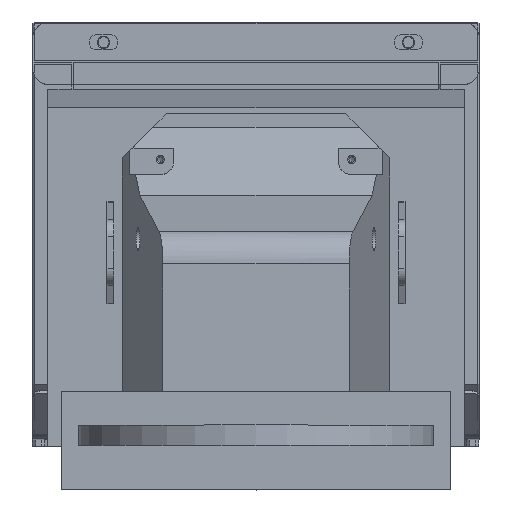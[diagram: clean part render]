
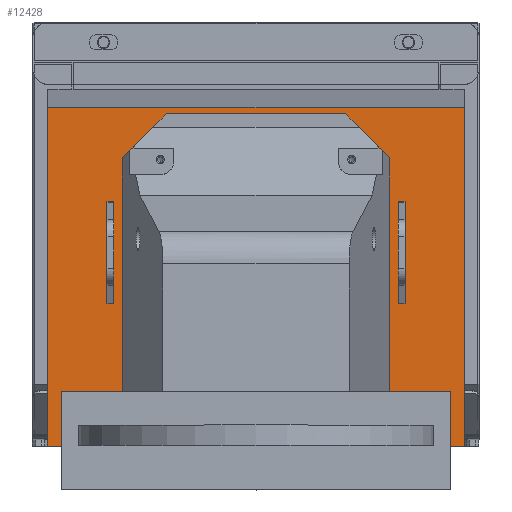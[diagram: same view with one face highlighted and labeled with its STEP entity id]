
A CAD part, top view. The second image highlights one B-rep face of the part: STEP entity #12428.
In plain terms, the highlighted planar face has unit normal (0, 0, 1).
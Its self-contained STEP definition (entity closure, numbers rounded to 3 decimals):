
#464=FACE_BOUND($,#2191,.T.);
#465=FACE_BOUND($,#2192,.T.);
#466=FACE_BOUND($,#2193,.T.);
#467=FACE_BOUND($,#2194,.T.);
#2191=EDGE_LOOP($,(#9802,#9803,#9804,#9805));
#2192=EDGE_LOOP($,(#9806,#9807,#9808,#9809));
#2193=EDGE_LOOP($,(#9810,#9811,#9812,#9813,#9814,#9815));
#2194=EDGE_LOOP($,(#9816,#9817,#9818,#9819));
#3276=LINE($,#18389,#4213);
#3282=LINE($,#18405,#4219);
#3296=LINE($,#18449,#4233);
#3298=LINE($,#18452,#4235);
#3317=LINE($,#18620,#4254);
#3323=LINE($,#18636,#4260);
#3337=LINE($,#18680,#4274);
#3339=LINE($,#18683,#4276);
#3605=LINE($,#19623,#4542);
#3614=LINE($,#19641,#4551);
#3617=LINE($,#19647,#4554);
#3625=LINE($,#19679,#4562);
#3645=LINE($,#19727,#4582);
#3668=LINE($,#19779,#4605);
#3764=LINE($,#20145,#4701);
#3766=LINE($,#20149,#4703);
#3767=LINE($,#20151,#4704);
#3768=LINE($,#20152,#4705);
#4213=VECTOR($,#14744,2.);
#4219=VECTOR($,#14756,30.);
#4233=VECTOR($,#14800,2.);
#4235=VECTOR($,#14804,30.);
#4254=VECTOR($,#14921,2.);
#4260=VECTOR($,#14933,30.);
#4274=VECTOR($,#14977,2.);
#4276=VECTOR($,#14981,30.);
#4542=VECTOR($,#15877,12.728);
#4551=VECTOR($,#15888,61.);
#4554=VECTOR($,#15893,12.728);
#4562=VECTOR($,#15923,69.);
#4582=VECTOR($,#15957,69.);
#4605=VECTOR($,#16018,79.);
#4701=VECTOR($,#16448,100.);
#4703=VECTOR($,#16452,123.);
#4704=VECTOR($,#16453,100.);
#4705=VECTOR($,#16454,123.);
#5243=VERTEX_POINT($,#18387);
#5244=VERTEX_POINT($,#18388);
#5251=VERTEX_POINT($,#18404);
#5266=VERTEX_POINT($,#18448);
#5299=VERTEX_POINT($,#18618);
#5300=VERTEX_POINT($,#18619);
#5307=VERTEX_POINT($,#18635);
#5322=VERTEX_POINT($,#18679);
#5608=VERTEX_POINT($,#19621);
#5609=VERTEX_POINT($,#19622);
#5617=VERTEX_POINT($,#19640);
#5619=VERTEX_POINT($,#19646);
#5632=VERTEX_POINT($,#19678);
#5653=VERTEX_POINT($,#19726);
#5765=VERTEX_POINT($,#20142);
#5766=VERTEX_POINT($,#20144);
#5767=VERTEX_POINT($,#20148);
#5768=VERTEX_POINT($,#20150);
#6420=EDGE_CURVE($,#5243,#5244,#3276,.T.);
#6428=EDGE_CURVE($,#5251,#5243,#3282,.T.);
#6450=EDGE_CURVE($,#5266,#5251,#3296,.T.);
#6452=EDGE_CURVE($,#5244,#5266,#3298,.T.);
#6509=EDGE_CURVE($,#5299,#5300,#3317,.T.);
#6517=EDGE_CURVE($,#5307,#5299,#3323,.T.);
#6539=EDGE_CURVE($,#5322,#5307,#3337,.T.);
#6541=EDGE_CURVE($,#5300,#5322,#3339,.T.);
#6959=EDGE_CURVE($,#5608,#5609,#3605,.T.);
#6968=EDGE_CURVE($,#5617,#5608,#3614,.T.);
#6971=EDGE_CURVE($,#5619,#5617,#3617,.T.);
#6985=EDGE_CURVE($,#5609,#5632,#3625,.T.);
#7009=EDGE_CURVE($,#5653,#5619,#3645,.T.);
#7036=EDGE_CURVE($,#5632,#5653,#3668,.T.);
#7194=EDGE_CURVE($,#5765,#5766,#3764,.T.);
#7196=EDGE_CURVE($,#5767,#5765,#3766,.T.);
#7197=EDGE_CURVE($,#5768,#5767,#3767,.T.);
#7198=EDGE_CURVE($,#5768,#5766,#3768,.T.);
#9802=ORIENTED_EDGE($,*,*,#6428,.T.);
#9803=ORIENTED_EDGE($,*,*,#6420,.T.);
#9804=ORIENTED_EDGE($,*,*,#6452,.T.);
#9805=ORIENTED_EDGE($,*,*,#6450,.T.);
#9806=ORIENTED_EDGE($,*,*,#6517,.T.);
#9807=ORIENTED_EDGE($,*,*,#6509,.T.);
#9808=ORIENTED_EDGE($,*,*,#6541,.T.);
#9809=ORIENTED_EDGE($,*,*,#6539,.T.);
#9810=ORIENTED_EDGE($,*,*,#6971,.T.);
#9811=ORIENTED_EDGE($,*,*,#6968,.T.);
#9812=ORIENTED_EDGE($,*,*,#6959,.T.);
#9813=ORIENTED_EDGE($,*,*,#6985,.T.);
#9814=ORIENTED_EDGE($,*,*,#7036,.T.);
#9815=ORIENTED_EDGE($,*,*,#7009,.T.);
#9816=ORIENTED_EDGE($,*,*,#7196,.F.);
#9817=ORIENTED_EDGE($,*,*,#7197,.F.);
#9818=ORIENTED_EDGE($,*,*,#7198,.T.);
#9819=ORIENTED_EDGE($,*,*,#7194,.F.);
#11036=PLANE($,#13574);
#12428=ADVANCED_FACE($,(#464,#465,#466,#467),#11036,.T.);
#13574=AXIS2_PLACEMENT_3D($,#20147,#16450,#16451);
#14744=DIRECTION($,(-1.,0.,0.));
#14756=DIRECTION($,(0.,-1.,0.));
#14800=DIRECTION($,(1.,0.,0.));
#14804=DIRECTION($,(0.,1.,0.));
#14921=DIRECTION($,(-1.,0.,0.));
#14933=DIRECTION($,(0.,-1.,0.));
#14977=DIRECTION($,(1.,0.,0.));
#14981=DIRECTION($,(0.,1.,0.));
#15877=DIRECTION($,(0.707,-0.707,0.));
#15888=DIRECTION($,(1.,0.,0.));
#15893=DIRECTION($,(0.707,0.707,0.));
#15923=DIRECTION($,(0.,-1.,0.));
#15957=DIRECTION($,(0.,1.,0.));
#16018=DIRECTION($,(-1.,0.,0.));
#16448=DIRECTION($,(0.,-1.,0.));
#16450=DIRECTION('center_axis',(0.,0.,
1.));
#16451=DIRECTION('ref_axis',(0.,1.,0.));
#16452=DIRECTION($,(1.,0.,0.));
#16453=DIRECTION($,(0.,1.,0.));
#16454=DIRECTION($,(1.,0.,0.));
#18387=CARTESIAN_POINT('',(-42.,-54.327,96.));
#18388=CARTESIAN_POINT('',(-44.,-54.327,96.));
#18389=CARTESIAN_POINT($,(-22.,-54.327,96.));
#18404=CARTESIAN_POINT('',(-42.,-24.327,96.));
#18405=CARTESIAN_POINT($,(-42.,-67.913,96.));
#18448=CARTESIAN_POINT('',(-44.,-24.327,96.));
#18449=CARTESIAN_POINT($,(-22.,-24.327,96.));
#18452=CARTESIAN_POINT($,(-44.,-67.913,96.));
#18618=CARTESIAN_POINT('',(44.,-54.327,96.));
#18619=CARTESIAN_POINT('',(42.,-54.327,96.));
#18620=CARTESIAN_POINT($,(21.,-54.327,96.));
#18635=CARTESIAN_POINT('',(44.,-24.327,96.));
#18636=CARTESIAN_POINT($,(44.,-67.913,96.));
#18679=CARTESIAN_POINT('',(42.,-24.327,96.));
#18680=CARTESIAN_POINT($,(21.,-24.327,96.));
#18683=CARTESIAN_POINT($,(42.,-67.913,96.));
#19621=CARTESIAN_POINT('',(30.5,-2.327,96.));
#19622=CARTESIAN_POINT('',(39.5,-11.327,96.));
#19623=CARTESIAN_POINT($,(50.918,-22.745,96.));
#19640=CARTESIAN_POINT('',(-30.5,-2.327,96.));
#19641=CARTESIAN_POINT($,(0.,-2.327,96.));
#19646=CARTESIAN_POINT('',(-39.5,-11.327,96.));
#19647=CARTESIAN_POINT($,(-44.418,-16.245,96.));
#19678=CARTESIAN_POINT('',(39.5,-80.327,96.));
#19679=CARTESIAN_POINT($,(39.5,-47.413,96.));
#19726=CARTESIAN_POINT('',(-39.5,-80.327,96.));
#19727=CARTESIAN_POINT($,(-39.5,-88.413,96.));
#19779=CARTESIAN_POINT($,(19.75,-80.327,96.));
#20142=CARTESIAN_POINT('',(61.5,3.5,96.));
#20144=CARTESIAN_POINT('',(61.5,-96.5,96.));
#20145=CARTESIAN_POINT($,(61.5,3.5,96.));
#20147=CARTESIAN_POINT('Origin',(0.,-96.5,
96.));
#20148=CARTESIAN_POINT('',(-61.5,3.5,96.));
#20149=CARTESIAN_POINT($,(0.,3.5,96.));
#20150=CARTESIAN_POINT('',(-61.5,-96.5,96.));
#20151=CARTESIAN_POINT($,(-61.5,3.5,96.));
#20152=CARTESIAN_POINT($,(0.,-96.5,96.));
